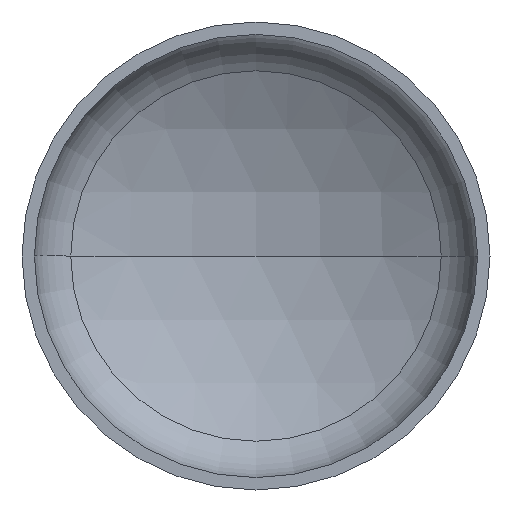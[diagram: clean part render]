
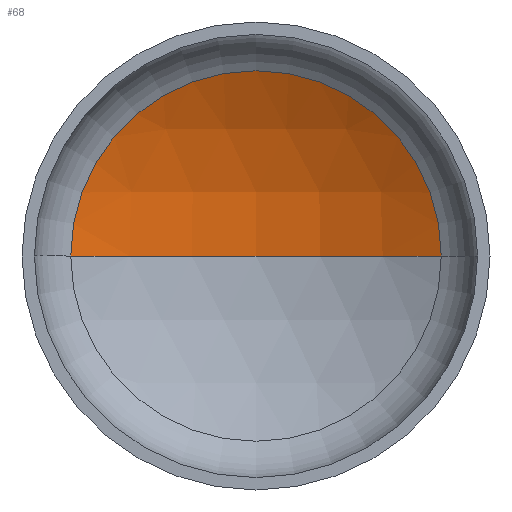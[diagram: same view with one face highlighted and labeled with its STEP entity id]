
A CAD part, front view. The second image highlights one B-rep face of the part: STEP entity #68.
In plain terms, the highlighted spherical face has radius 3200 mm.
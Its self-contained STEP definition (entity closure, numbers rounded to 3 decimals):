
#2 = DIRECTION ( 'NONE',  ( 1., 0., 0. ) ) ;
#11 = DIRECTION ( 'NONE',  ( -1., 0., 0. ) ) ;
#19 = EDGE_LOOP ( 'NONE', ( #116, #314, #101 ) ) ;
#20 = DIRECTION ( 'NONE',  ( 0., 0., -1. ) ) ;
#22 = AXIS2_PLACEMENT_3D ( 'NONE', #135, #277, #302 ) ;
#25 = AXIS2_PLACEMENT_3D ( 'NONE', #34, #20, #11 ) ;
#27 = AXIS2_PLACEMENT_3D ( 'NONE', #382, #236, #2 ) ;
#34 = CARTESIAN_POINT ( 'NONE',  ( 0., -2171.416, 0. ) ) ;
#36 = VERTEX_POINT ( 'NONE', #296 ) ;
#65 = AXIS2_PLACEMENT_3D ( 'NONE', #372, #374, #261 ) ;
#68 = ADVANCED_FACE ( 'NONE', ( #245 ), #301, .F. ) ;
#73 = VERTEX_POINT ( 'NONE', #240 ) ;
#92 = EDGE_CURVE ( 'NONE', #73, #36, #225, .T. ) ;
#94 = EDGE_CURVE ( 'NONE', #98, #73, #406, .T. ) ;
#96 = EDGE_CURVE ( 'NONE', #98, #36, #350, .T. ) ;
#98 = VERTEX_POINT ( 'NONE', #299 ) ;
#101 = ORIENTED_EDGE ( 'NONE', *, *, #92, .T. ) ;
#116 = ORIENTED_EDGE ( 'NONE', *, *, #96, .F. ) ;
#135 = CARTESIAN_POINT ( 'NONE',  ( 0., -2171.416, 0. ) ) ;
#225 = CIRCLE ( 'NONE', #27, 1583.288 ) ;
#236 = DIRECTION ( 'NONE',  ( 0., -1., 0. ) ) ;
#240 = CARTESIAN_POINT ( 'NONE',  ( 1583.288, 609.447, 0. ) ) ;
#245 = FACE_OUTER_BOUND ( 'NONE', #19, .T. ) ;
#261 = DIRECTION ( 'NONE',  ( -1., 0., 0. ) ) ;
#277 = DIRECTION ( 'NONE',  ( 0., 0., 1. ) ) ;
#296 = CARTESIAN_POINT ( 'NONE',  ( -1583.288, 609.447, 0. ) ) ;
#299 = CARTESIAN_POINT ( 'NONE',  ( 0., 1028.584, 0. ) ) ;
#301 = SPHERICAL_SURFACE ( 'NONE', #65, 3200. ) ;
#302 = DIRECTION ( 'NONE',  ( 1., 0., 0. ) ) ;
#314 = ORIENTED_EDGE ( 'NONE', *, *, #94, .T. ) ;
#350 = CIRCLE ( 'NONE', #22, 3200. ) ;
#372 = CARTESIAN_POINT ( 'NONE',  ( 0., -2171.416, 0. ) ) ;
#374 = DIRECTION ( 'NONE',  ( 0., 0., -1. ) ) ;
#382 = CARTESIAN_POINT ( 'NONE',  ( 0., 609.447, 0. ) ) ;
#406 = CIRCLE ( 'NONE', #25, 3200. ) ;
